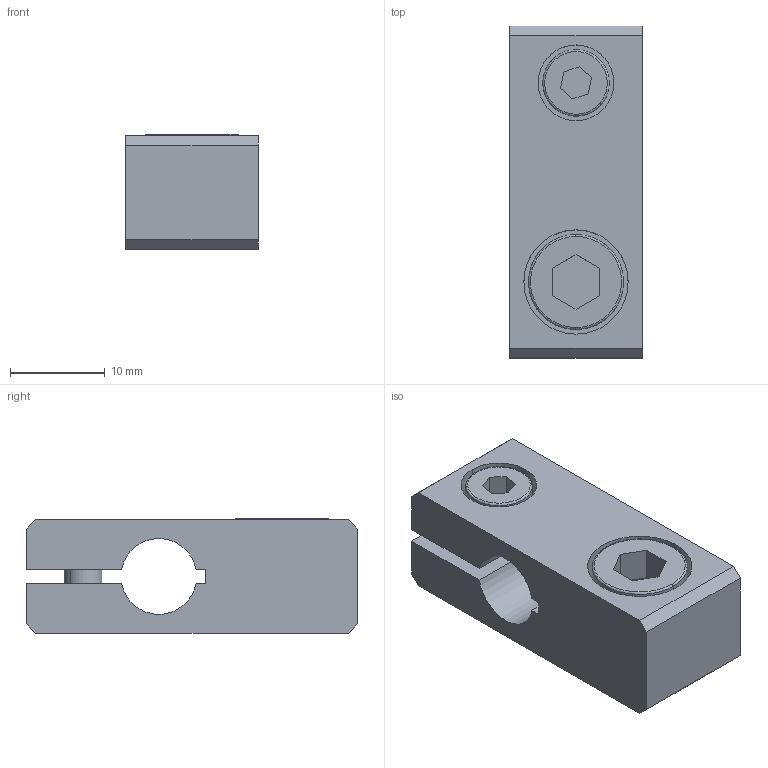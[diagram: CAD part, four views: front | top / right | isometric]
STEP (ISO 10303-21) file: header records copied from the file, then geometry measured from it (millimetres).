
FILE_DESCRIPTION (( 'STEP AP214' ), '1' );
FILE_NAME ('SMBH1-8M6.STEP', '2019-11-07T07:14:01', ( '微软用户' ), ( '微软中国' ), 'SwSTEP 2.0', 'SolidWorks 2016', '' );
FILE_SCHEMA (( 'AUTOMOTIVE_DESIGN' ));
Length unit declared in the file: millimetre
Products named in the file (1): SMBH1-8M6
Bounding box: 14 x 35 x 12.1 mm (x, y, z)
Volume: 4616.6 mm3; surface area: 4026.3 mm2
Topology: 5 solids, 5 shells, 412 faces, 1182 edges, 782 vertices
Faces by surface type: plane 374, cylinder 28, cone 6, bspline 4
Entity records: 18301 total; most frequent: CARTESIAN_POINT 2543, DIRECTION 2382, ORIENTED_EDGE 2364, EDGE_CURVE 1182, AXIS2_PLACEMENT_3D 799, VECTOR 784, LINE 784, VERTEX_POINT 782
